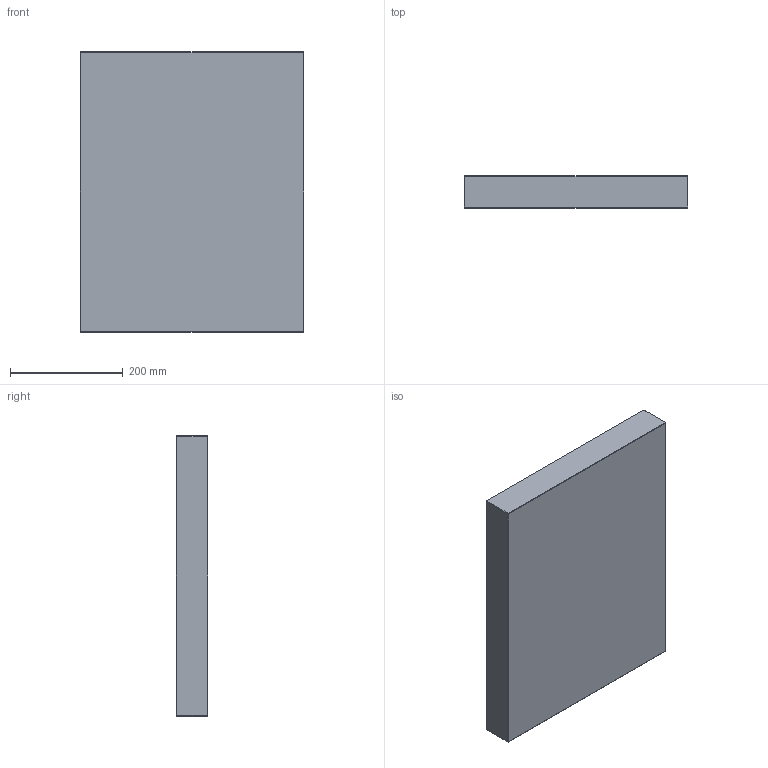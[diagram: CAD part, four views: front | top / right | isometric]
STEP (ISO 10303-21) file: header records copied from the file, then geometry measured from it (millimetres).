
FILE_DESCRIPTION (( 'STEP AP214' ), '1' );
FILE_NAME ('PC-P-396x496x56.STEP', '2020-04-01T10:40:29', ( 'August' ), ( '' ), 'SwSTEP 2.0', 'SolidWorks 2018', '' );
FILE_SCHEMA (( 'AUTOMOTIVE_DESIGN' ));
Length unit declared in the file: millimetre
Products named in the file (1): PC-P-396x496x56
Bounding box: 396 x 56 x 496 mm (x, y, z)
Volume: 10997405.3 mm3; surface area: 490511.7 mm2
Topology: 1 solids, 1 shells, 26 faces, 48 edges, 24 vertices
Faces by surface type: plane 26
Entity records: 634 total; most frequent: DIRECTION 102, CARTESIAN_POINT 99, ORIENTED_EDGE 96, EDGE_CURVE 48, VECTOR 48, LINE 48, AXIS2_PLACEMENT_3D 27, ADVANCED_FACE 26
